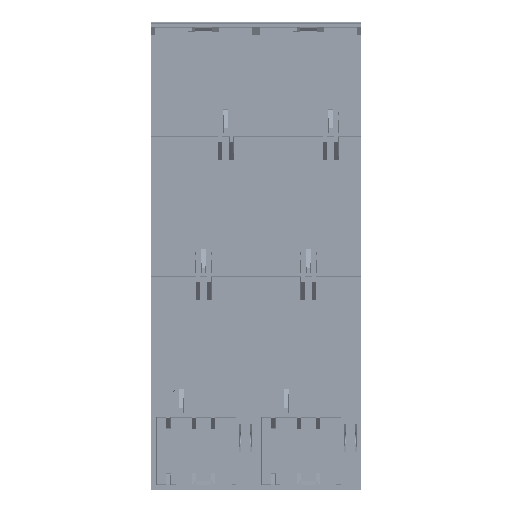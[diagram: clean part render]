
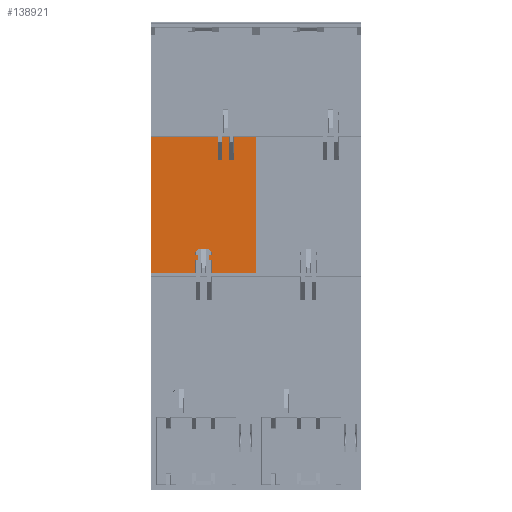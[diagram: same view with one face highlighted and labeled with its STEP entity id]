
A CAD part, front view. The second image highlights one B-rep face of the part: STEP entity #138921.
In plain terms, the highlighted planar face has unit normal (0, -1, 0).
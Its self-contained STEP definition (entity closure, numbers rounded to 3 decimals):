
#1479 = VECTOR ( 'NONE', #107988, 1000. ) ;
#1817 = VERTEX_POINT ( 'NONE', #124614 ) ;
#4443 = ORIENTED_EDGE ( 'NONE', *, *, #49243, .T. ) ;
#4931 = CARTESIAN_POINT ( 'NONE',  ( 8.041, -4.5, 141.175 ) ) ;
#10908 = VECTOR ( 'NONE', #38263, 1000. ) ;
#11334 = DIRECTION ( 'NONE',  ( 0., 0., 1. ) ) ;
#12986 = VERTEX_POINT ( 'NONE', #85532 ) ;
#14661 = CARTESIAN_POINT ( 'NONE',  ( 22.5, -4.5, 200.5 ) ) ;
#15115 = DIRECTION ( 'NONE',  ( 0., 0., -1. ) ) ;
#19004 = ORIENTED_EDGE ( 'NONE', *, *, #107769, .T. ) ;
#21902 = VERTEX_POINT ( 'NONE', #4931 ) ;
#23524 = ORIENTED_EDGE ( 'NONE', *, *, #123528, .T. ) ;
#27998 = LINE ( 'NONE', #97495, #47598 ) ;
#28285 = DIRECTION ( 'NONE',  ( 0., -1., 0. ) ) ;
#28603 = ORIENTED_EDGE ( 'NONE', *, *, #140153, .T. ) ;
#28880 = VECTOR ( 'NONE', #11334, 1000. ) ;
#28895 = VERTEX_POINT ( 'NONE', #77157 ) ;
#32835 = ORIENTED_EDGE ( 'NONE', *, *, #61363, .T. ) ;
#33298 = VECTOR ( 'NONE', #61890, 1000. ) ;
#35078 = CARTESIAN_POINT ( 'NONE',  ( 25.5, -4.5, 93. ) ) ;
#36304 = EDGE_CURVE ( 'NONE', #21902, #155254, #141606, .T. ) ;
#38263 = DIRECTION ( 'NONE',  ( 0., 0., -1. ) ) ;
#42299 = CARTESIAN_POINT ( 'NONE',  ( 224.594, -4.5, 141.175 ) ) ;
#42644 = EDGE_LOOP ( 'NONE', ( #94363, #4443, #112601, #70736, #73226, #158714, #32835, #45121, #23524, #19004, #43999, #28603 ) ) ;
#43999 = ORIENTED_EDGE ( 'NONE', *, *, #36304, .T. ) ;
#45121 = ORIENTED_EDGE ( 'NONE', *, *, #103337, .T. ) ;
#47598 = VECTOR ( 'NONE', #59082, 1000. ) ;
#48190 = VERTEX_POINT ( 'NONE', #91468 ) ;
#49243 = EDGE_CURVE ( 'NONE', #125827, #149079, #119552, .T. ) ;
#59082 = DIRECTION ( 'NONE',  ( 0., 0., -1. ) ) ;
#61363 = EDGE_CURVE ( 'NONE', #105960, #48190, #104552, .T. ) ;
#61645 = AXIS2_PLACEMENT_3D ( 'NONE', #104491, #28285, #15115 ) ;
#61890 = DIRECTION ( 'NONE',  ( -1., 0., 0. ) ) ;
#62000 = EDGE_CURVE ( 'NONE', #12986, #28895, #84844, .T. ) ;
#65643 = EDGE_CURVE ( 'NONE', #28895, #1817, #160614, .T. ) ;
#67450 = VERTEX_POINT ( 'NONE', #141387 ) ;
#69446 = CARTESIAN_POINT ( 'NONE',  ( 6.059, -4.5, 151.209 ) ) ;
#70087 = LINE ( 'NONE', #35078, #125033 ) ;
#70736 = ORIENTED_EDGE ( 'NONE', *, *, #62000, .T. ) ;
#73226 = ORIENTED_EDGE ( 'NONE', *, *, #65643, .T. ) ;
#76000 = DIRECTION ( 'NONE',  ( 0., 0., 1. ) ) ;
#77157 = CARTESIAN_POINT ( 'NONE',  ( 22.5, -4.5, 151.209 ) ) ;
#80186 = CARTESIAN_POINT ( 'NONE',  ( 12.941, -4.5, 141.175 ) ) ;
#82100 = VECTOR ( 'NONE', #155838, 1000. ) ;
#82107 = VERTEX_POINT ( 'NONE', #94713 ) ;
#84051 = LINE ( 'NONE', #150090, #101690 ) ;
#84844 = LINE ( 'NONE', #14661, #110375 ) ;
#85532 = CARTESIAN_POINT ( 'NONE',  ( 22.5, -4.5, 93. ) ) ;
#91468 = CARTESIAN_POINT ( 'NONE',  ( 10.959, -4.5, 141.175 ) ) ;
#91700 = CARTESIAN_POINT ( 'NONE',  ( 224.594, -4.5, 151.209 ) ) ;
#92283 = DIRECTION ( 'NONE',  ( -1., 0., 0. ) ) ;
#92409 = CARTESIAN_POINT ( 'NONE',  ( -22.5, -4.5, 151.209 ) ) ;
#94363 = ORIENTED_EDGE ( 'NONE', *, *, #147342, .T. ) ;
#94713 = CARTESIAN_POINT ( 'NONE',  ( 10.959, -4.5, 151.209 ) ) ;
#97495 = CARTESIAN_POINT ( 'NONE',  ( 8.041, -4.5, 200.5 ) ) ;
#97544 = DIRECTION ( 'NONE',  ( 0., 0., -1. ) ) ;
#99448 = EDGE_CURVE ( 'NONE', #1817, #105960, #144331, .T. ) ;
#99544 = VERTEX_POINT ( 'NONE', #69446 ) ;
#101360 = DIRECTION ( 'NONE',  ( 1., 0., 0. ) ) ;
#101690 = VECTOR ( 'NONE', #76000, 1000. ) ;
#102628 = VECTOR ( 'NONE', #92283, 1000. ) ;
#103337 = EDGE_CURVE ( 'NONE', #48190, #82107, #117171, .T. ) ;
#103783 = VECTOR ( 'NONE', #97544, 1000. ) ;
#104491 = CARTESIAN_POINT ( 'NONE',  ( 224.594, -4.5, 200.5 ) ) ;
#104552 = LINE ( 'NONE', #42299, #102628 ) ;
#105960 = VERTEX_POINT ( 'NONE', #80186 ) ;
#107769 = EDGE_CURVE ( 'NONE', #67450, #21902, #27998, .T. ) ;
#107988 = DIRECTION ( 'NONE',  ( -1., 0., 0. ) ) ;
#110375 = VECTOR ( 'NONE', #150125, 1000. ) ;
#112601 = ORIENTED_EDGE ( 'NONE', *, *, #141558, .T. ) ;
#116462 = DIRECTION ( 'NONE',  ( -1., 0., 0. ) ) ;
#117171 = LINE ( 'NONE', #124310, #28880 ) ;
#117408 = CARTESIAN_POINT ( 'NONE',  ( -22.5, -4.5, 93. ) ) ;
#119552 = LINE ( 'NONE', #120085, #103783 ) ;
#120085 = CARTESIAN_POINT ( 'NONE',  ( -22.5, -4.5, 200. ) ) ;
#121104 = CARTESIAN_POINT ( 'NONE',  ( 224.594, -4.5, 151.209 ) ) ;
#123528 = EDGE_CURVE ( 'NONE', #82107, #67450, #147087, .T. ) ;
#124310 = CARTESIAN_POINT ( 'NONE',  ( 10.959, -4.5, 200.5 ) ) ;
#124614 = CARTESIAN_POINT ( 'NONE',  ( 12.941, -4.5, 151.209 ) ) ;
#125033 = VECTOR ( 'NONE', #101360, 1000. ) ;
#125827 = VERTEX_POINT ( 'NONE', #92409 ) ;
#129179 = PLANE ( 'NONE',  #61645 ) ;
#133106 = LINE ( 'NONE', #121104, #1479 ) ;
#137582 = CARTESIAN_POINT ( 'NONE',  ( 12.941, -4.5, 200.5 ) ) ;
#137639 = CARTESIAN_POINT ( 'NONE',  ( 224.594, -4.5, 151.209 ) ) ;
#138921 = ADVANCED_FACE ( 'NONE', ( #153001 ), #129179, .T. ) ;
#140153 = EDGE_CURVE ( 'NONE', #155254, #99544, #84051, .T. ) ;
#141387 = CARTESIAN_POINT ( 'NONE',  ( 8.041, -4.5, 151.209 ) ) ;
#141558 = EDGE_CURVE ( 'NONE', #149079, #12986, #70087, .T. ) ;
#141606 = LINE ( 'NONE', #153729, #153396 ) ;
#144331 = LINE ( 'NONE', #137582, #10908 ) ;
#147087 = LINE ( 'NONE', #137639, #33298 ) ;
#147342 = EDGE_CURVE ( 'NONE', #99544, #125827, #133106, .T. ) ;
#149079 = VERTEX_POINT ( 'NONE', #117408 ) ;
#150090 = CARTESIAN_POINT ( 'NONE',  ( 6.059, -4.5, 200.5 ) ) ;
#150125 = DIRECTION ( 'NONE',  ( 0., 0., 1. ) ) ;
#153001 = FACE_OUTER_BOUND ( 'NONE', #42644, .T. ) ;
#153396 = VECTOR ( 'NONE', #116462, 1000. ) ;
#153729 = CARTESIAN_POINT ( 'NONE',  ( 224.594, -4.5, 141.175 ) ) ;
#155254 = VERTEX_POINT ( 'NONE', #160964 ) ;
#155838 = DIRECTION ( 'NONE',  ( -1., 0., 0. ) ) ;
#158714 = ORIENTED_EDGE ( 'NONE', *, *, #99448, .T. ) ;
#160614 = LINE ( 'NONE', #91700, #82100 ) ;
#160964 = CARTESIAN_POINT ( 'NONE',  ( 6.059, -4.5, 141.175 ) ) ;
